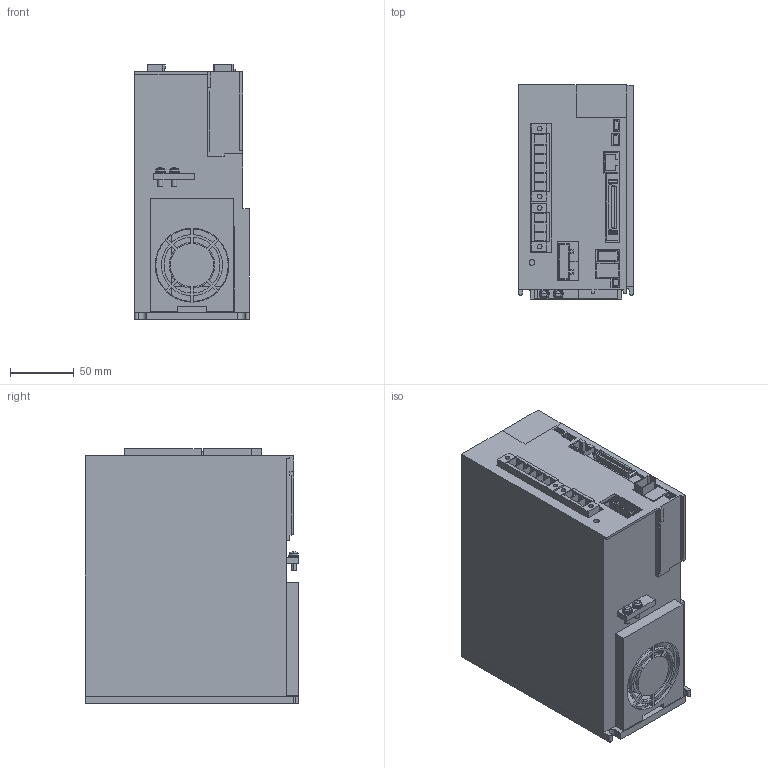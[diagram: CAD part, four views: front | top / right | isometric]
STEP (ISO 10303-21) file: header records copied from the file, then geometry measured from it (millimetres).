
FILE_DESCRIPTION((''),'2;1');
FILE_NAME('MR-J3-350AB_ASM','2011-02-18T',('JE18792'),(''),'PRO/ENGINEER BY PARAMETRIC TECHNOLOGY CORPORATION, 2006420','PRO/ENGINEER BY PARAMETRIC TECHNOLOGY CORPORATION, 2006420','');
FILE_SCHEMA(('CONFIG_CONTROL_DESIGN'));
Length unit declared in the file: millimetre
Products named in the file (16): J3-350-CHASSIS; J3-350A-CASE; J3-200-350-FANCOVER; J3-LENZ; J3A-CN1; J3A-CN2; J3A-CN3; J3A-CN4; J3A-CN5; J3A-CN6; J3-350-CNP1; J3-350-CNP2; J3-350-CNP3; FAN60; SW-PW-P-NA-M4X12; MR-J3-350AB_ASM
Assembly tree (16 placements, depth 2):
  MR-J3-350AB_ASM
    J3-350-CHASSIS
    J3-350A-CASE
    J3-200-350-FANCOVER
    J3-LENZ
    J3A-CN1
    J3A-CN2
    J3A-CN3
    J3A-CN4
    J3A-CN5
    J3A-CN6
    J3-350-CNP1
    J3-350-CNP2
    J3-350-CNP3
    FAN60
    SW-PW-P-NA-M4X12  x2
Bounding box: 90 x 168 x 201 mm (x, y, z)
Volume: 448879.5 mm3; surface area: 297581.8 mm2
Topology: 18 solids, 18 shells, 496 faces, 1300 edges, 862 vertices
Faces by surface type: plane 402, cylinder 82, cone 4, torus 4, sphere 4
Entity records: 15126 total; most frequent: CARTESIAN_POINT 2621, ORIENTED_EDGE 2532, DIRECTION 2452, EDGE_CURVE 1266, VECTOR 1104, LINE 1104, VERTEX_POINT 843, AXIS2_PLACEMENT_3D 674
